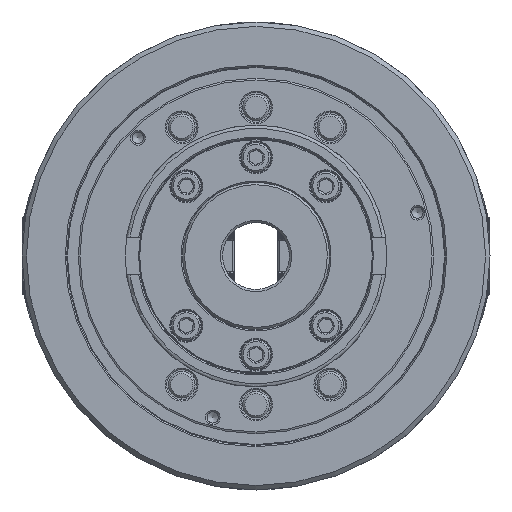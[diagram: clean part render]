
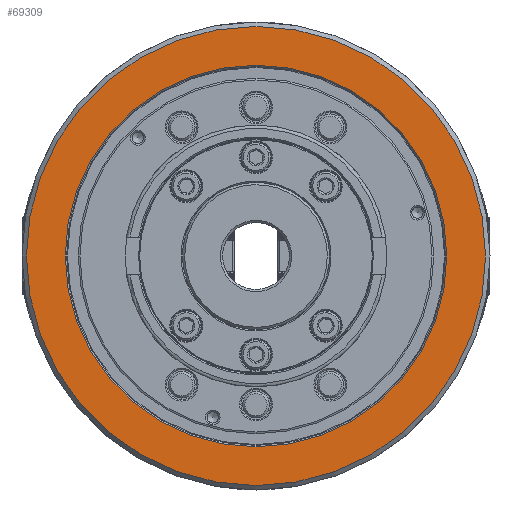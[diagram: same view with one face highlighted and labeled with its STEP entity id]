
A CAD part, left-side view. The second image highlights one B-rep face of the part: STEP entity #69309.
In plain terms, the highlighted planar face has unit normal (-1, 0, 0).
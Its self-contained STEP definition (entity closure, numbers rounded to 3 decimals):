
#624 = AXIS2_PLACEMENT_3D ( 'NONE', #9759, #10565, #73938 ) ;
#6029 = CIRCLE ( 'NONE', #624, 85.6 ) ;
#9759 = CARTESIAN_POINT ( 'NONE',  ( -91., 0., 0. ) ) ;
#10565 = DIRECTION ( 'NONE',  ( 1., 0., 0. ) ) ;
#11804 = CARTESIAN_POINT ( 'NONE',  ( -91., 0., 0. ) ) ;
#22249 = PLANE ( 'NONE',  #66513 ) ;
#22668 = CARTESIAN_POINT ( 'NONE',  ( -91., -85.6, 0. ) ) ;
#29768 = ORIENTED_EDGE ( 'NONE', *, *, #57971, .T. ) ;
#29834 = FACE_BOUND ( 'NONE', #74183, .T. ) ;
#37575 = DIRECTION ( 'NONE',  ( 0., 0., -1. ) ) ;
#44480 = ORIENTED_EDGE ( 'NONE', *, *, #55122, .F. ) ;
#44742 = DIRECTION ( 'NONE',  ( 1., 0., 0. ) ) ;
#47175 = CIRCLE ( 'NONE', #64640, 103. ) ;
#47629 = FACE_OUTER_BOUND ( 'NONE', #80003, .T. ) ;
#55122 = EDGE_CURVE ( 'NONE', #83460, #83460, #47175, .T. ) ;
#55583 = DIRECTION ( 'NONE',  ( 1., 0., 0. ) ) ;
#55972 = DIRECTION ( 'NONE',  ( 0., 0., -1. ) ) ;
#57971 = EDGE_CURVE ( 'NONE', #70796, #70796, #6029, .T. ) ;
#64640 = AXIS2_PLACEMENT_3D ( 'NONE', #11804, #44742, #37575 ) ;
#66513 = AXIS2_PLACEMENT_3D ( 'NONE', #22668, #55583, #55972 ) ;
#69309 = ADVANCED_FACE ( 'NONE', ( #47629, #29834 ), #22249, .F. ) ;
#70796 = VERTEX_POINT ( 'NONE', #71211 ) ;
#71211 = CARTESIAN_POINT ( 'NONE',  ( -91., 0., -85.6 ) ) ;
#73938 = DIRECTION ( 'NONE',  ( 0., 0., -1. ) ) ;
#74183 = EDGE_LOOP ( 'NONE', ( #29768 ) ) ;
#77550 = CARTESIAN_POINT ( 'NONE',  ( -91., 0., -103. ) ) ;
#80003 = EDGE_LOOP ( 'NONE', ( #44480 ) ) ;
#83460 = VERTEX_POINT ( 'NONE', #77550 ) ;
